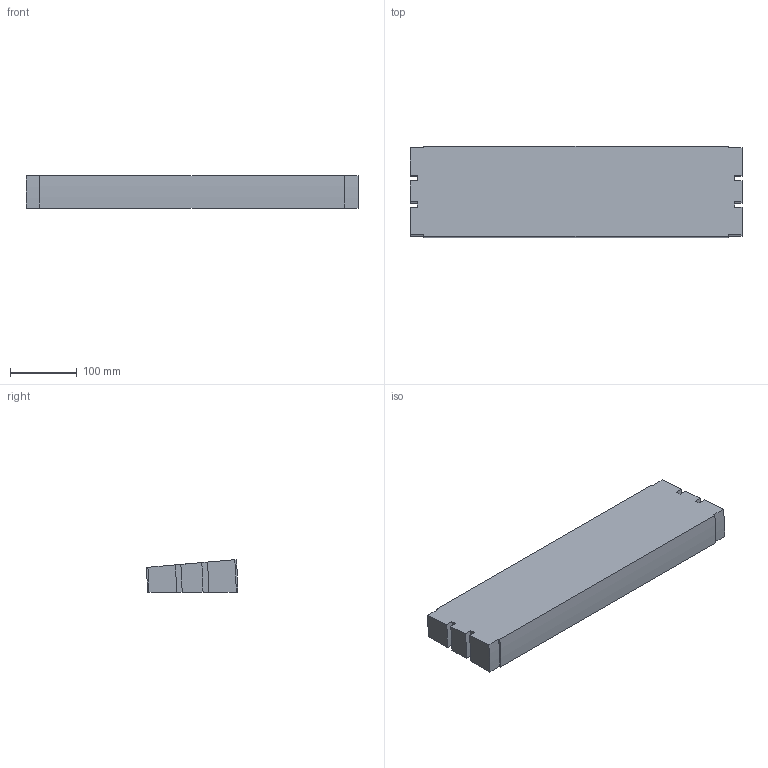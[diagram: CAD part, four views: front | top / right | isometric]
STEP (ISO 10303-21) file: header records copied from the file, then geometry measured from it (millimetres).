
FILE_DESCRIPTION (( 'STEP AP214' ), '1' );
FILE_NAME ('02.150V05.500.N FS-500-MTC-150 Bocht verticaal 5°.STEP', '2013-03-29T13:20:37', ( 'Gebruiker' ), ( '' ), 'SwSTEP 2.0', 'SolidWorks 2012', '' );
FILE_SCHEMA (( 'AUTOMOTIVE_DESIGN' ));
Length unit declared in the file: millimetre
Products named in the file (1): 02.150V05.500.N FS-500-MTC-150 Bocht verticaal 5°
Bounding box: 499 x 137.64 x 49.5 mm (x, y, z)
Volume: 2935643.8 mm3; surface area: 193813.9 mm2
Topology: 1 solids, 1 shells, 30 faces, 84 edges, 56 vertices
Faces by surface type: plane 16, cylinder 14
Entity records: 1010 total; most frequent: DIRECTION 174, CARTESIAN_POINT 171, ORIENTED_EDGE 168, EDGE_CURVE 84, AXIS2_PLACEMENT_3D 59, VECTOR 56, LINE 56, VERTEX_POINT 56
